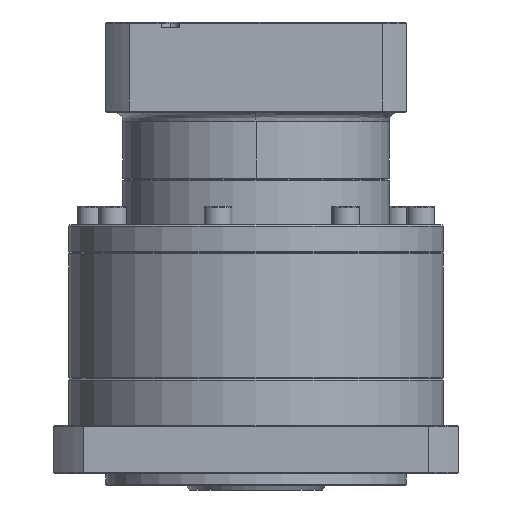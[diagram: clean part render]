
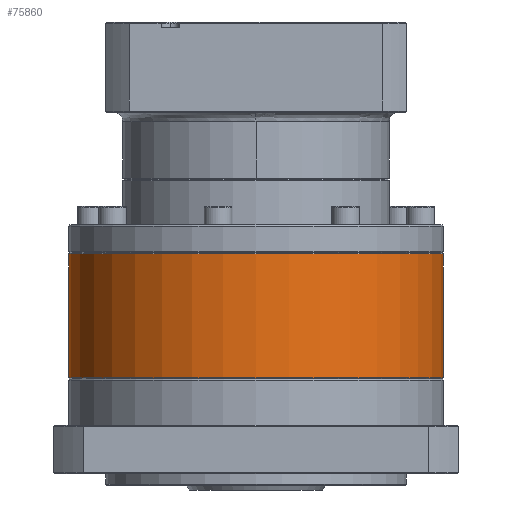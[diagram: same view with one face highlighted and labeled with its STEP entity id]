
A CAD part, front view. The second image highlights one B-rep face of the part: STEP entity #75860.
In plain terms, the highlighted cylindrical face has radius 81 mm (diameter 162 mm), a partial arc.
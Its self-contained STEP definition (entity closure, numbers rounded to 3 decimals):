
#8299 = VECTOR ( 'NONE', #105296, 1000. ) ;
#9305 = DIRECTION ( 'NONE',  ( 0., 0., -1. ) ) ;
#12162 = AXIS2_PLACEMENT_3D ( 'NONE', #100584, #133927, #36848 ) ;
#12599 = ORIENTED_EDGE ( 'NONE', *, *, #66029, .T. ) ;
#14188 = ORIENTED_EDGE ( 'NONE', *, *, #96123, .T. ) ;
#16887 = CARTESIAN_POINT ( 'NONE',  ( -135.318, 81.564, -106.691 ) ) ;
#18414 = ORIENTED_EDGE ( 'NONE', *, *, #136102, .T. ) ;
#20853 = CYLINDRICAL_SURFACE ( 'NONE', #113509, 81. ) ;
#26601 = CARTESIAN_POINT ( 'NONE',  ( -54.318, 81.564, -107.191 ) ) ;
#28603 = CIRCLE ( 'NONE', #12162, 81. ) ;
#31692 = CARTESIAN_POINT ( 'NONE',  ( -135.318, 81.564, -107.191 ) ) ;
#36848 = DIRECTION ( 'NONE',  ( 1., 0., 0. ) ) ;
#36967 = DIRECTION ( 'NONE',  ( 0., 0., -1. ) ) ;
#37343 = AXIS2_PLACEMENT_3D ( 'NONE', #47214, #36967, #57980 ) ;
#39898 = CIRCLE ( 'NONE', #37343, 81. ) ;
#40073 = CARTESIAN_POINT ( 'NONE',  ( -135.318, 0.564, -107.191 ) ) ;
#40219 = DIRECTION ( 'NONE',  ( 0., 0., -1. ) ) ;
#40894 = VERTEX_POINT ( 'NONE', #133521 ) ;
#41966 = DIRECTION ( 'NONE',  ( -1., 0., 0. ) ) ;
#42176 = DIRECTION ( 'NONE',  ( -1., 0., 0. ) ) ;
#43325 = DIRECTION ( 'NONE',  ( 0., 0., -1. ) ) ;
#45161 = CARTESIAN_POINT ( 'NONE',  ( -54.318, 81.564, -160.691 ) ) ;
#47214 = CARTESIAN_POINT ( 'NONE',  ( -135.318, 81.564, -107.191 ) ) ;
#52283 = CARTESIAN_POINT ( 'NONE',  ( -216.318, 81.564, -106.691 ) ) ;
#56520 = ORIENTED_EDGE ( 'NONE', *, *, #100662, .F. ) ;
#57980 = DIRECTION ( 'NONE',  ( -1., 0., 0. ) ) ;
#58670 = LINE ( 'NONE', #52283, #8299 ) ;
#66029 = EDGE_CURVE ( 'NONE', #72791, #80060, #39898, .T. ) ;
#72791 = VERTEX_POINT ( 'NONE', #40073 ) ;
#75860 = ADVANCED_FACE ( 'NONE', ( #89560 ), #20853, .T. ) ;
#80060 = VERTEX_POINT ( 'NONE', #120079 ) ;
#83974 = VERTEX_POINT ( 'NONE', #26601 ) ;
#89560 = FACE_OUTER_BOUND ( 'NONE', #98719, .T. ) ;
#89613 = AXIS2_PLACEMENT_3D ( 'NONE', #31692, #43325, #41966 ) ;
#93022 = VERTEX_POINT ( 'NONE', #45161 ) ;
#96123 = EDGE_CURVE ( 'NONE', #83974, #72791, #115835, .T. ) ;
#97078 = VECTOR ( 'NONE', #40219, 1000. ) ;
#98719 = EDGE_LOOP ( 'NONE', ( #126738, #14188, #12599, #18414, #56520 ) ) ;
#100584 = CARTESIAN_POINT ( 'NONE',  ( -135.318, 81.564, -160.691 ) ) ;
#100662 = EDGE_CURVE ( 'NONE', #93022, #40894, #28603, .T. ) ;
#105296 = DIRECTION ( 'NONE',  ( 0., 0., -1. ) ) ;
#107238 = EDGE_CURVE ( 'NONE', #83974, #93022, #125702, .T. ) ;
#113509 = AXIS2_PLACEMENT_3D ( 'NONE', #16887, #9305, #42176 ) ;
#115835 = CIRCLE ( 'NONE', #89613, 81. ) ;
#120079 = CARTESIAN_POINT ( 'NONE',  ( -216.318, 81.564, -107.191 ) ) ;
#125124 = CARTESIAN_POINT ( 'NONE',  ( -54.318, 81.564, -106.691 ) ) ;
#125702 = LINE ( 'NONE', #125124, #97078 ) ;
#126738 = ORIENTED_EDGE ( 'NONE', *, *, #107238, .F. ) ;
#133521 = CARTESIAN_POINT ( 'NONE',  ( -216.318, 81.564, -160.691 ) ) ;
#133927 = DIRECTION ( 'NONE',  ( 0., 0., -1. ) ) ;
#136102 = EDGE_CURVE ( 'NONE', #80060, #40894, #58670, .T. ) ;
